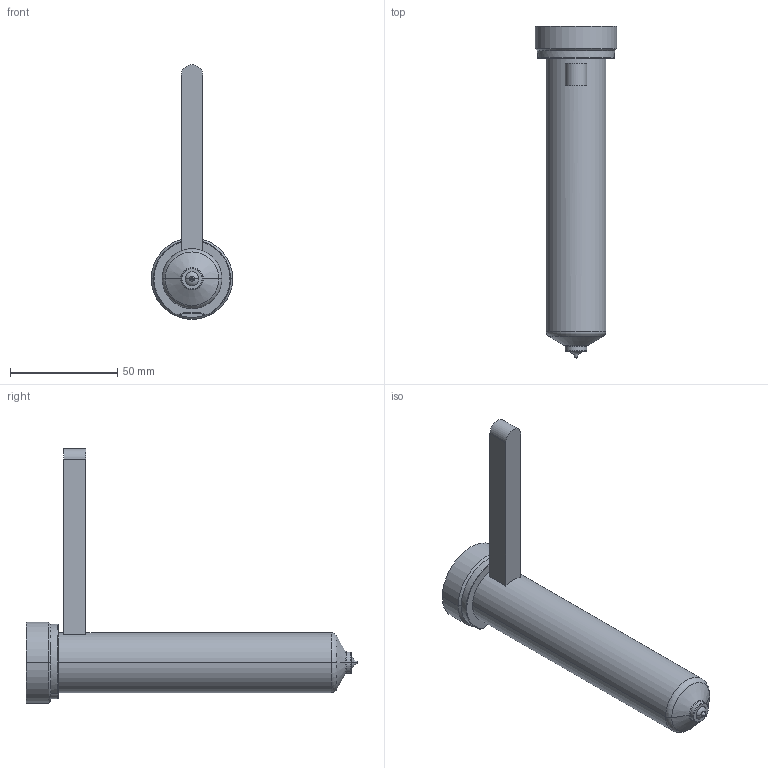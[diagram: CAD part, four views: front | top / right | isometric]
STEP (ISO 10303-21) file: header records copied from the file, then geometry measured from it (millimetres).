
FILE_DESCRIPTION((''),'2;1');
FILE_NAME('EO06_VG-BL_WR_140_COT','2024-02-19T13:03:58',('sundharh'),(''),'CREO PARAMETRIC BY PTC INC, 2023154','CREO PARAMETRIC BY PTC INC, 2023154','');
FILE_SCHEMA(('CONFIG_CONTROL_DESIGN'));
Length unit declared in the file: millimetre
Products named in the file (1): EO06_VG-BL_WR_140_COT
Bounding box: 38 x 155 x 119 mm (x, y, z)
Volume: 106773.1 mm3; surface area: 18946.1 mm2
Topology: 1 solids, 1 shells, 38 faces, 81 edges, 48 vertices
Faces by surface type: cylinder 11, plane 10, torus 9, cone 6, sphere 2
Entity records: 1147 total; most frequent: CARTESIAN_POINT 259, DIRECTION 199, ORIENTED_EDGE 162, AXIS2_PLACEMENT_3D 86, EDGE_CURVE 81, VERTEX_POINT 48, CIRCLE 48, EDGE_LOOP 41
